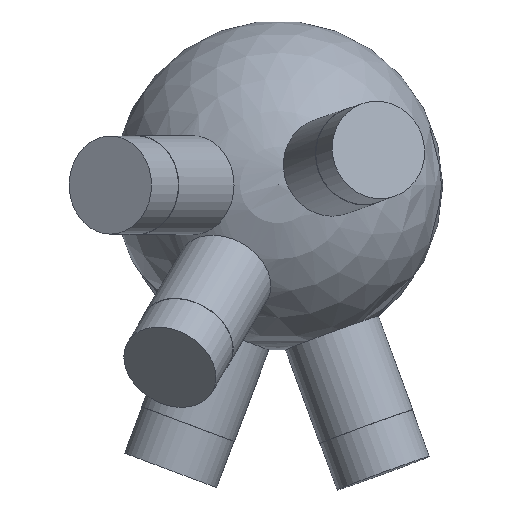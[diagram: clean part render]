
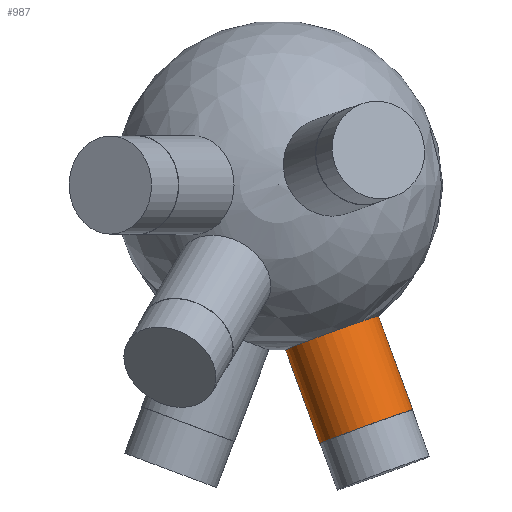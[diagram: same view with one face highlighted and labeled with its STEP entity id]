
A CAD part, top view. The second image highlights one B-rep face of the part: STEP entity #987.
In plain terms, the highlighted cylindrical face has radius 6 mm (diameter 12 mm), a full revolution.
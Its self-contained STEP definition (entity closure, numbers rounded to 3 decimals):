
#33 = SPHERICAL_SURFACE('',#34,20.);
#34 = AXIS2_PLACEMENT_3D('',#35,#36,#37);
#35 = CARTESIAN_POINT('',(0.,0.,0.));
#36 = DIRECTION('',(0.,0.,1.));
#37 = DIRECTION('',(1.,0.,-0.));
#522 = EDGE_CURVE('',#523,#523,#525,.T.);
#523 = VERTEX_POINT('',#524);
#524 = CARTESIAN_POINT('',(0.909,-19.977,0.308
    ));
#525 = SURFACE_CURVE('',#526,(#531,#593),.PCURVE_S1.);
#526 = CIRCLE('',#527,6.);
#527 = AXIS2_PLACEMENT_3D('',#528,#529,#530);
#528 = CARTESIAN_POINT('',(6.545,-17.918,0.308
    ));
#529 = DIRECTION('',(0.343,-0.939,0.016)
  );
#530 = DIRECTION('',(0.939,0.343,0.));
#531 = PCURVE('',#33,#532);
#532 = DEFINITIONAL_REPRESENTATION('',(#533),#592);
#533 = B_SPLINE_CURVE_WITH_KNOTS('',8,(#534,#535,#536,#537,#538,#539,
    #540,#541,#542,#543,#544,#545,#546,#547,#548,#549,#550,#551,#552,
    #553,#554,#555,#556,#557,#558,#559,#560,#561,#562,#563,#564,#565,
    #566,#567,#568,#569,#570,#571,#572,#573,#574,#575,#576,#577,#578,
    #579,#580,#581,#582,#583,#584,#585,#586,#587,#588,#589,#590,#591),
  .UNSPECIFIED.,.F.,.F.,(9,7,7,7,7,7,7,7,9),(3.142,
    3.927,4.614,5.216,6.268,
    7.057,7.649,8.537,9.425),
  .UNSPECIFIED.);
#534 = CARTESIAN_POINT('',(4.758,0.015));
#535 = CARTESIAN_POINT('',(4.758,-0.014));
#536 = CARTESIAN_POINT('',(4.761,-0.043));
#537 = CARTESIAN_POINT('',(4.768,-0.073));
#538 = CARTESIAN_POINT('',(4.777,-0.101));
#539 = CARTESIAN_POINT('',(4.79,-0.128));
#540 = CARTESIAN_POINT('',(4.805,-0.153));
#541 = CARTESIAN_POINT('',(4.824,-0.177));
#542 = CARTESIAN_POINT('',(4.863,-0.217));
#543 = CARTESIAN_POINT('',(4.883,-0.233));
#544 = CARTESIAN_POINT('',(4.905,-0.248));
#545 = CARTESIAN_POINT('',(4.928,-0.261));
#546 = CARTESIAN_POINT('',(4.953,-0.271));
#547 = CARTESIAN_POINT('',(4.979,-0.279));
#548 = CARTESIAN_POINT('',(5.005,-0.284));
#549 = CARTESIAN_POINT('',(5.055,-0.289));
#550 = CARTESIAN_POINT('',(5.079,-0.29));
#551 = CARTESIAN_POINT('',(5.103,-0.288));
#552 = CARTESIAN_POINT('',(5.126,-0.284));
#553 = CARTESIAN_POINT('',(5.149,-0.278));
#554 = CARTESIAN_POINT('',(5.171,-0.271));
#555 = CARTESIAN_POINT('',(5.192,-0.261));
#556 = CARTESIAN_POINT('',(5.248,-0.23));
#557 = CARTESIAN_POINT('',(5.28,-0.205));
#558 = CARTESIAN_POINT('',(5.308,-0.176));
#559 = CARTESIAN_POINT('',(5.33,-0.143));
#560 = CARTESIAN_POINT('',(5.348,-0.106));
#561 = CARTESIAN_POINT('',(5.36,-0.068));
#562 = CARTESIAN_POINT('',(5.366,-0.029));
#563 = CARTESIAN_POINT('',(5.368,0.04));
#564 = CARTESIAN_POINT('',(5.365,0.07));
#565 = CARTESIAN_POINT('',(5.359,0.099));
#566 = CARTESIAN_POINT('',(5.35,0.128));
#567 = CARTESIAN_POINT('',(5.338,0.155));
#568 = CARTESIAN_POINT('',(5.323,0.181));
#569 = CARTESIAN_POINT('',(5.305,0.205));
#570 = CARTESIAN_POINT('',(5.269,0.243));
#571 = CARTESIAN_POINT('',(5.252,0.258));
#572 = CARTESIAN_POINT('',(5.234,0.272));
#573 = CARTESIAN_POINT('',(5.214,0.284));
#574 = CARTESIAN_POINT('',(5.194,0.294));
#575 = CARTESIAN_POINT('',(5.172,0.303));
#576 = CARTESIAN_POINT('',(5.15,0.309));
#577 = CARTESIAN_POINT('',(5.093,0.321));
#578 = CARTESIAN_POINT('',(5.057,0.324));
#579 = CARTESIAN_POINT('',(5.022,0.322));
#580 = CARTESIAN_POINT('',(4.987,0.316));
#581 = CARTESIAN_POINT('',(4.953,0.306));
#582 = CARTESIAN_POINT('',(4.921,0.291));
#583 = CARTESIAN_POINT('',(4.892,0.272));
#584 = CARTESIAN_POINT('',(4.84,0.229));
#585 = CARTESIAN_POINT('',(4.817,0.204));
#586 = CARTESIAN_POINT('',(4.797,0.176));
#587 = CARTESIAN_POINT('',(4.781,0.146));
#588 = CARTESIAN_POINT('',(4.769,0.115));
#589 = CARTESIAN_POINT('',(4.762,0.082));
#590 = CARTESIAN_POINT('',(4.758,0.049));
#591 = CARTESIAN_POINT('',(4.758,0.015));
#592 = ( GEOMETRIC_REPRESENTATION_CONTEXT(2) 
PARAMETRIC_REPRESENTATION_CONTEXT() REPRESENTATION_CONTEXT('2D SPACE',''
  ) );
#593 = PCURVE('',#594,#599);
#594 = CYLINDRICAL_SURFACE('',#595,6.);
#595 = AXIS2_PLACEMENT_3D('',#596,#597,#598);
#596 = CARTESIAN_POINT('',(0.,0.,0.));
#597 = DIRECTION('',(0.343,-0.939,0.016)
  );
#598 = DIRECTION('',(-0.939,-0.343,0.
    ));
#599 = DEFINITIONAL_REPRESENTATION('',(#600),#604);
#600 = LINE('',#601,#602);
#601 = CARTESIAN_POINT('',(-3.142,19.079));
#602 = VECTOR('',#603,1.);
#603 = DIRECTION('',(1.,0.));
#604 = ( GEOMETRIC_REPRESENTATION_CONTEXT(2) 
PARAMETRIC_REPRESENTATION_CONTEXT() REPRESENTATION_CONTEXT('2D SPACE',''
  ) );
#987 = ADVANCED_FACE('',(#988),#594,.T.);
#988 = FACE_BOUND('',#989,.T.);
#989 = EDGE_LOOP('',(#990,#1013,#1040,#1041));
#990 = ORIENTED_EDGE('',*,*,#991,.T.);
#991 = EDGE_CURVE('',#523,#992,#994,.T.);
#992 = VERTEX_POINT('',#993);
#993 = CARTESIAN_POINT('',(5.065,-31.356,0.504
    ));
#994 = SEAM_CURVE('',#995,(#999,#1006),.PCURVE_S1.);
#995 = LINE('',#996,#997);
#996 = CARTESIAN_POINT('',(-5.636,-2.058,
    0.));
#997 = VECTOR('',#998,1.);
#998 = DIRECTION('',(0.343,-0.939,0.016)
  );
#999 = PCURVE('',#594,#1000);
#1000 = DEFINITIONAL_REPRESENTATION('',(#1001),#1005);
#1001 = LINE('',#1002,#1003);
#1002 = CARTESIAN_POINT('',(6.283,-0.));
#1003 = VECTOR('',#1004,1.);
#1004 = DIRECTION('',(0.,1.));
#1005 = ( GEOMETRIC_REPRESENTATION_CONTEXT(2) 
PARAMETRIC_REPRESENTATION_CONTEXT() REPRESENTATION_CONTEXT('2D SPACE',''
  ) );
#1006 = PCURVE('',#594,#1007);
#1007 = DEFINITIONAL_REPRESENTATION('',(#1008),#1012);
#1008 = LINE('',#1009,#1010);
#1009 = CARTESIAN_POINT('',(0.,-0.));
#1010 = VECTOR('',#1011,1.);
#1011 = DIRECTION('',(0.,1.));
#1012 = ( GEOMETRIC_REPRESENTATION_CONTEXT(2) 
PARAMETRIC_REPRESENTATION_CONTEXT() REPRESENTATION_CONTEXT('2D SPACE',''
  ) );
#1013 = ORIENTED_EDGE('',*,*,#1014,.F.);
#1014 = EDGE_CURVE('',#992,#992,#1015,.T.);
#1015 = SURFACE_CURVE('',#1016,(#1021,#1028),.PCURVE_S1.);
#1016 = CIRCLE('',#1017,6.);
#1017 = AXIS2_PLACEMENT_3D('',#1018,#1019,#1020);
#1018 = CARTESIAN_POINT('',(10.701,-29.297,
    0.504));
#1019 = DIRECTION('',(0.343,-0.939,0.016)
  );
#1020 = DIRECTION('',(-0.939,-0.343,
    0.));
#1021 = PCURVE('',#594,#1022);
#1022 = DEFINITIONAL_REPRESENTATION('',(#1023),#1027);
#1023 = LINE('',#1024,#1025);
#1024 = CARTESIAN_POINT('',(0.,31.195));
#1025 = VECTOR('',#1026,1.);
#1026 = DIRECTION('',(1.,0.));
#1027 = ( GEOMETRIC_REPRESENTATION_CONTEXT(2) 
PARAMETRIC_REPRESENTATION_CONTEXT() REPRESENTATION_CONTEXT('2D SPACE',''
  ) );
#1028 = PCURVE('',#1029,#1034);
#1029 = PLANE('',#1030);
#1030 = AXIS2_PLACEMENT_3D('',#1031,#1032,#1033);
#1031 = CARTESIAN_POINT('',(10.701,-29.297,
    0.504));
#1032 = DIRECTION('',(0.343,-0.939,0.016)
  );
#1033 = DIRECTION('',(-0.939,-0.343,
    0.));
#1034 = DEFINITIONAL_REPRESENTATION('',(#1035),#1039);
#1035 = CIRCLE('',#1036,6.);
#1036 = AXIS2_PLACEMENT_2D('',#1037,#1038);
#1037 = CARTESIAN_POINT('',(0.,0.));
#1038 = DIRECTION('',(1.,0.));
#1039 = ( GEOMETRIC_REPRESENTATION_CONTEXT(2) 
PARAMETRIC_REPRESENTATION_CONTEXT() REPRESENTATION_CONTEXT('2D SPACE',''
  ) );
#1040 = ORIENTED_EDGE('',*,*,#991,.F.);
#1041 = ORIENTED_EDGE('',*,*,#522,.T.);
